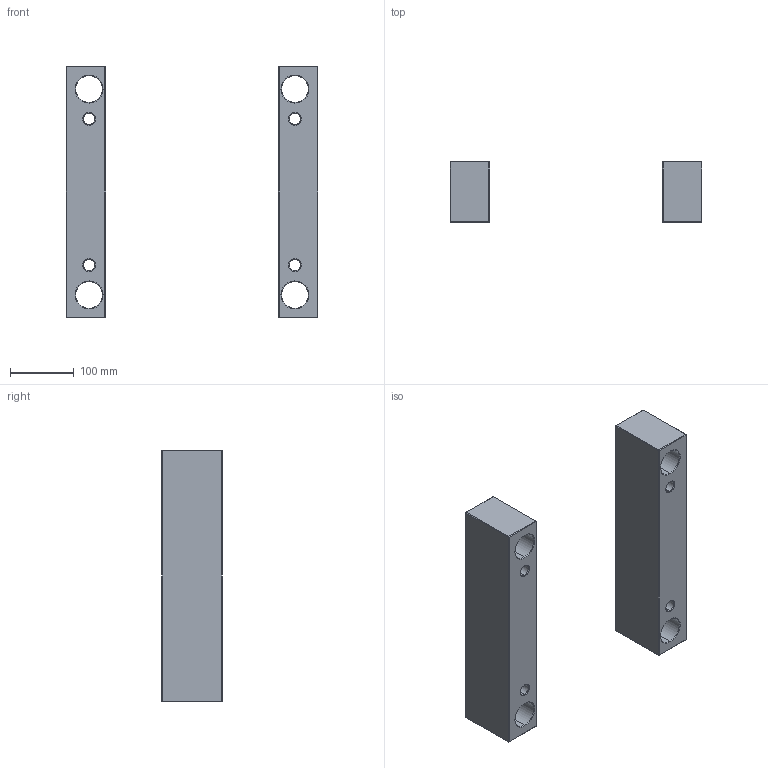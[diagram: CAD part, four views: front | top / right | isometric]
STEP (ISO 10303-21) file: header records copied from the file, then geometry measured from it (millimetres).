
FILE_DESCRIPTION (( 'STEP AP214' ), '1' );
FILE_NAME ('ESP-EU-396X396x96.STEP', '2020-04-16T11:28:56', ( 'August' ), ( '' ), 'SwSTEP 2.0', 'SolidWorks 2018', '' );
FILE_SCHEMA (( 'AUTOMOTIVE_DESIGN' ));
Length unit declared in the file: millimetre
Products named in the file (1): ESP-EU-396X396x96
Bounding box: 396 x 96 x 396 mm (x, y, z)
Volume: 4081282 mm3; surface area: 329878.2 mm2
Topology: 2 solids, 2 shells, 100 faces, 208 edges, 112 vertices
Faces by surface type: plane 52, cone 32, cylinder 16
Entity records: 2631 total; most frequent: DIRECTION 474, CARTESIAN_POINT 421, ORIENTED_EDGE 416, EDGE_CURVE 208, AXIS2_PLACEMENT_3D 165, VECTOR 144, LINE 144, EDGE_LOOP 116
